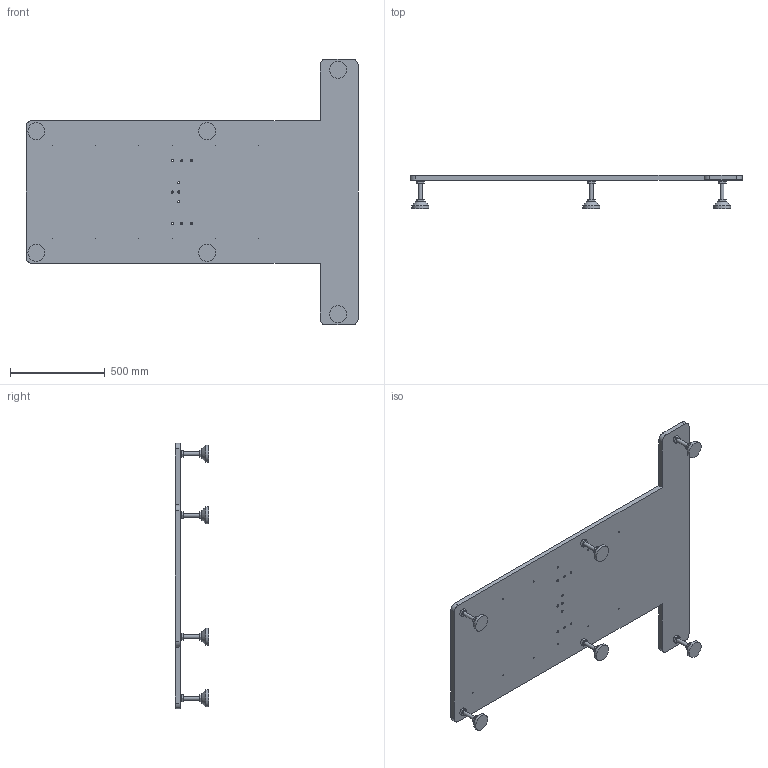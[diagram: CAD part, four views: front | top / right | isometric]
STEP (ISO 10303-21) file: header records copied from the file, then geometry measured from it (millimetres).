
FILE_DESCRIPTION(/* description */ (''),/* implementation_level */ '2;1');
FILE_NAME(/* name */ 'M530大底板-2025-8-18.stp',/* time_stamp */ '2025-08-18T13:45:14+08:00',/* author */ (''),/* organization */ (''),/* preprocessor_version */ 'ST-DEVELOPER v16.7',/* originating_system */ 'SIEMENS PLM Software NX 12.0',/* authorisation */ '');
FILE_SCHEMA (('AUTOMOTIVE_DESIGN { 1 0 10303 214 3 1 1 1 }'));
Length unit declared in the file: millimetre
Products named in the file (1): Admi14380FEF62yk
Bounding box: 1750 x 175 x 1400 mm (x, y, z)
Volume: 37399378 mm3; surface area: 3305642.9 mm2
Topology: 19 solids, 19 shells, 342 faces, 952 edges, 618 vertices
Faces by surface type: plane 180, cylinder 114, cone 24, revolution 24
Full cylindrical faces by diameter (mm): 6.8 x12, 10.2 x10, 17.5 x6, 20 x18, 90 x6
Entity records: 11458 total; most frequent: CARTESIAN_POINT 3209, ORIENTED_EDGE 1564, DIRECTION 1564, EDGE_CURVE 782, AXIS2_PLACEMENT_3D 583, VERTEX_POINT 572, EDGE_LOOP 536, LINE 374
